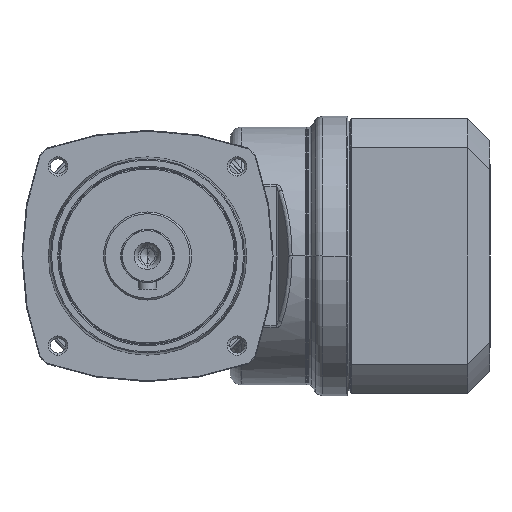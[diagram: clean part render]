
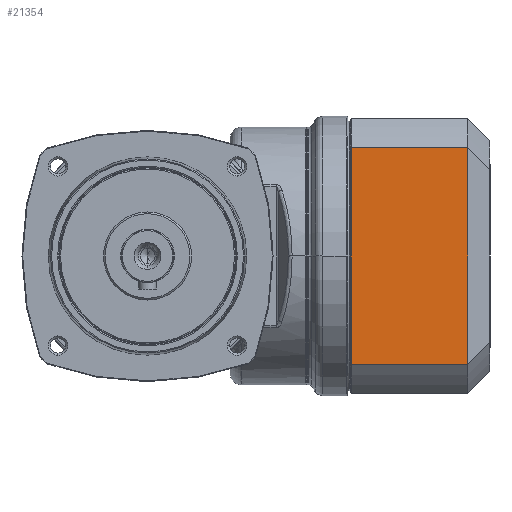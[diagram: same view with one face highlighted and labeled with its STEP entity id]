
A CAD part, left-side view. The second image highlights one B-rep face of the part: STEP entity #21354.
In plain terms, the highlighted planar face has unit normal (-1, 0, 0) as drawn and (0, -1, 0) by its records, which use the part's own axes.
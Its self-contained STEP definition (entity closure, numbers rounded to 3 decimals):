
#20108=DIRECTION('',(1.,0.,0.));
#20109=VECTOR('',#20108,98.265);
#20110=CARTESIAN_POINT('',(-49.132,-62.5,56.));
#20111=LINE('',#20110,#20109);
#20112=DIRECTION('',(0.,0.,1.));
#20113=VECTOR('',#20112,53.1);
#20114=CARTESIAN_POINT('',(49.132,-62.5,
2.9));
#20115=LINE('',#20114,#20113);
#20116=DIRECTION('',(1.,0.,0.));
#20117=VECTOR('',#20116,98.265);
#20118=CARTESIAN_POINT('',(-49.132,-62.5,
2.9));
#20119=LINE('',#20118,#20117);
#20120=DIRECTION('',(0.,0.,1.));
#20121=VECTOR('',#20120,53.1);
#20122=CARTESIAN_POINT('',(-49.132,-62.5,
2.9));
#20123=LINE('',#20122,#20121);
#20129=CARTESIAN_POINT('',(49.132,-62.5,56.));
#20444=CARTESIAN_POINT('',(-49.132,-62.5,2.9));
#20446=VERTEX_POINT('',#20444);
#20449=CARTESIAN_POINT('',(49.132,-62.5,
2.9));
#20450=VERTEX_POINT('',#20449);
#20496=CARTESIAN_POINT('',(-49.132,-62.5,56.));
#20498=VERTEX_POINT('',#20496);
#20506=VERTEX_POINT('',#20129);
#21342=CARTESIAN_POINT('',(-62.5,-62.5,0.));
#21343=DIRECTION('',(0.,-1.,0.));
#21344=DIRECTION('',(1.,0.,0.));
#21345=AXIS2_PLACEMENT_3D('',#21342,#21343,#21344);
#21346=PLANE('',#21345);
#21348=ORIENTED_EDGE('',*,*,#21347,.T.);
#21349=ORIENTED_EDGE('',*,*,#21258,.F.);
#21350=ORIENTED_EDGE('',*,*,#21336,.F.);
#21351=ORIENTED_EDGE('',*,*,#21269,.T.);
#21352=EDGE_LOOP('',(#21348,#21349,#21350,#21351));
#21353=FACE_OUTER_BOUND('',#21352,.F.);
#21354=ADVANCED_FACE('',(#21353),#21346,.T.);
#21258=EDGE_CURVE('',#20450,#20506,#20115,.T.);
#21269=EDGE_CURVE('',#20446,#20498,#20123,.T.);
#21336=EDGE_CURVE('',#20446,#20450,#20119,.T.);
#21347=EDGE_CURVE('',#20498,#20506,#20111,.T.);
